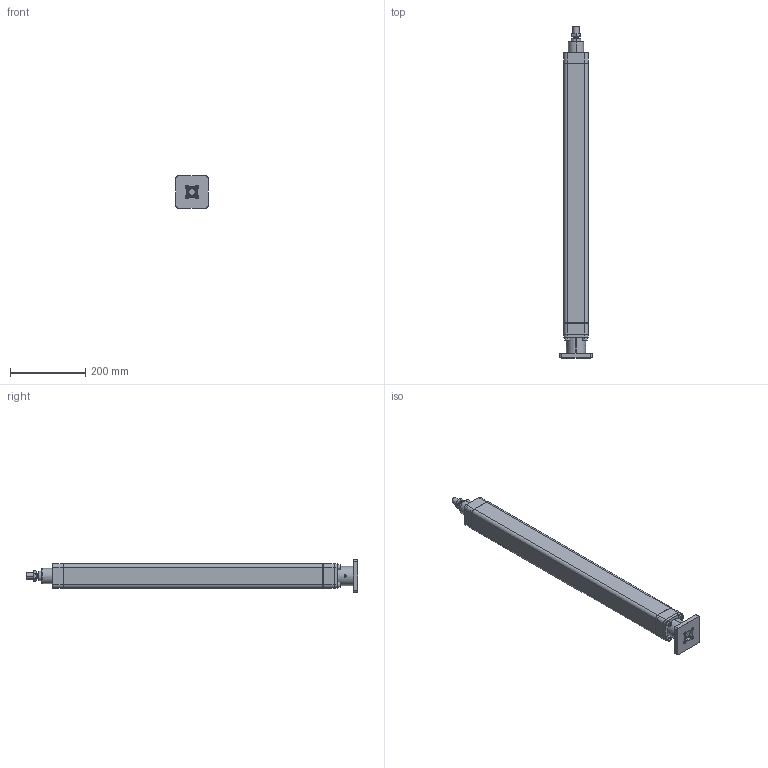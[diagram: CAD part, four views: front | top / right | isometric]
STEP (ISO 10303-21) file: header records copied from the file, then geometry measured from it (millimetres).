
FILE_DESCRIPTION (( 'STEP AP203' ), '1' );
FILE_NAME ('CS050-S050-600-D.STEP', '2010-10-27T20:41:15', ( 'Admin' ), ( '' ), 'SwSTEP 2.0', 'SolidWorks 2007', '' );
FILE_SCHEMA (( 'CONFIG_CONTROL_DESIGN' ));
Length unit declared in the file: millimetre
Products named in the file (16): CS050Bs600CorpoGuidato; CS050BsSteloCromato; CS050BsNaselloINOX; M5x20Testa-Cilin-Esag-Incas; M3x5Testa-Svas-Esag-Incas; CS050-S050-600-D; CS050BsTestataAnteriore; CS050BsTestataPosteriore; BV08ViteDoppia; CS050BsBoccolaGuida; M16DadoBasso; CAS050DrMOTORE-DIRETTO; CS050DrPiastraMotore86; CS050DrCampana; CS050DrCoperchietto; M8x20Testa-Cilin-Esag-Incas
Assembly tree (29 placements, depth 3):
  CS050-S050-600-D
    BV08ViteDoppia  x8
    M8x20Testa-Cilin-Esag-Incas  x4
    CS050BsSteloCromato
    CS050Bs600CorpoGuidato
    M16DadoBasso
    CS050BsBoccolaGuida
    CS050BsNaselloINOX
    CAS050DrMOTORE-DIRETTO
      M3x5Testa-Svas-Esag-Incas  x2
      M5x20Testa-Cilin-Esag-Incas  x4
      CS050DrCoperchietto
      CS050DrPiastraMotore86
      CS050DrCampana
    CS050BsTestataAnteriore
    CS050BsTestataPosteriore
Bounding box: 86 x 882.2 x 86 mm (x, y, z)
Volume: 1747556.2 mm3; surface area: 486766.9 mm2
Topology: 29 solids, 29 shells, 1288 faces, 2797 edges, 1603 vertices
Faces by surface type: plane 430, cone 389, cylinder 342, torus 117, bspline 10
Entity records: 24366 total; most frequent: CARTESIAN_POINT 5096, DIRECTION 3878, ORIENTED_EDGE 3374, EDGE_CURVE 1687, AXIS2_PLACEMENT_3D 1554, VERTEX_POINT 981, EDGE_LOOP 866, VECTOR 770
